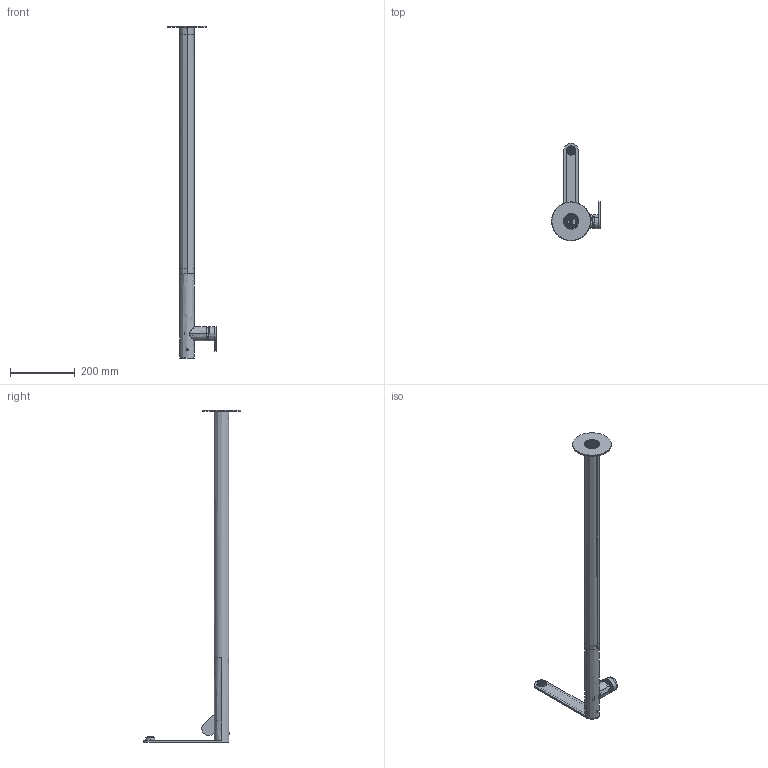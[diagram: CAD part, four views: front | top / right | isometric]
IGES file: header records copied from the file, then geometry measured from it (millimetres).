
Start section:  PTC IGES file: 79595.igs
Global section: file name: 79595.igs; native system: Creo Parametric by PTC Inc.; preprocessor: 2025443; author: carloff; organization: Unknown; date: 20261005.144628; units: millimetre
Bounding box: 150.1 x 302.5 x 1025 mm (x, y, z)
Surface area: 515760.2 mm2 (no closed solid volume)
Topology: 0 solids, 0 shells, 4871 faces, 25054 edges, 25036 vertices
Faces by surface type: bspline 3438, revolution 1433
